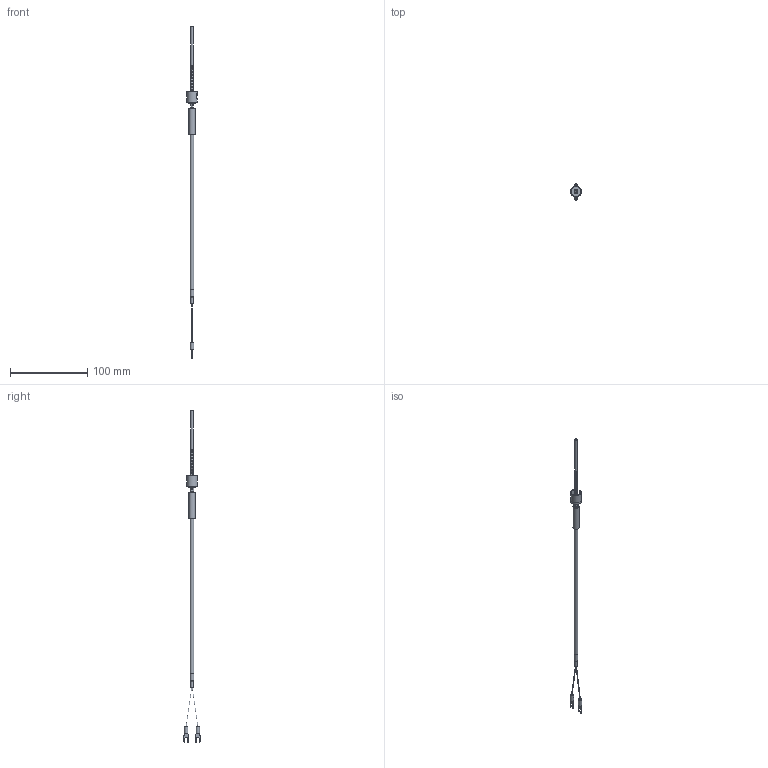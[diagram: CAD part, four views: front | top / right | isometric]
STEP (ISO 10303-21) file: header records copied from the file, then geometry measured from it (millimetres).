
FILE_DESCRIPTION (( 'STEP AP203' ), '1' );
FILE_NAME ('YIT201S-1(0).STEP', '2024-01-30T06:38:29', ( '' ), ( '' ), 'SwSTEP 2.0', 'SolidWorks 2021', '' );
FILE_SCHEMA (( 'CONFIG_CONTROL_DESIGN' ));
Length unit declared in the file: millimetre
Products named in the file (1): YIT201S-1(0)
Bounding box: 14 x 20.85 x 429.92 mm (x, y, z)
Volume: 7729.5 mm3; surface area: 7950.4 mm2
Topology: 1 solids, 1 shells, 92 faces, 220 edges, 143 vertices
Faces by surface type: plane 47, cylinder 31, bspline 9, cone 4, torus 1
Full cylindrical faces by diameter (mm): 3.16 x1, 3.2 x2, 4.5 x2, 4.8 x1, 5 x2, 8 x1, 10 x1, 12.8 x1, 14 x1
Entity records: 6517 total; most frequent: CARTESIAN_POINT 4468, DIRECTION 396, ORIENTED_EDGE 380, EDGE_CURVE 190, AXIS2_PLACEMENT_3D 145, VERTEX_POINT 135, EDGE_LOOP 125, VECTOR 106
